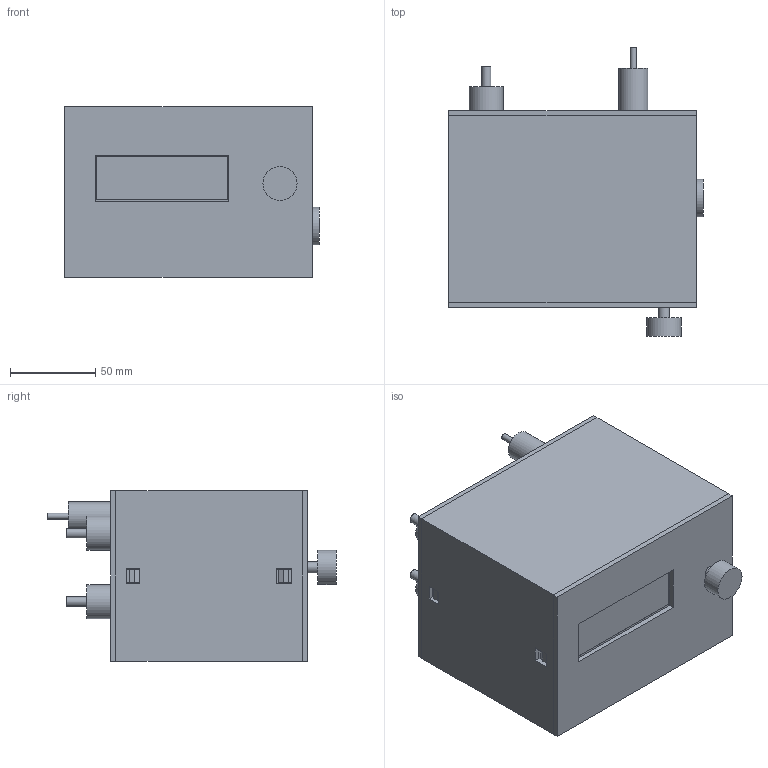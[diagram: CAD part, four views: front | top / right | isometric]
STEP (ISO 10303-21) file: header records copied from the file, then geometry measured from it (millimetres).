
FILE_DESCRIPTION(('Open CASCADE Model'),'2;1');
FILE_NAME('Open CASCADE Shape Model','2026-11-04T22:00:47',('Author'),( 'Open CASCADE'),'Open CASCADE STEP processor 7.8','Open CASCADE 7.8' ,'Unknown');
FILE_SCHEMA(('AUTOMOTIVE_DESIGN { 1 0 10303 214 1 1 1 1 }'));
Length unit declared in the file: millimetre
Products named in the file (76): Laboratory_controller_fit_study_04_Removable_Front; 01_Pieces_imprimees; 01_Shell_open_front_and_rear; 02_Removable_front_LCD_A; 03_B_removable_carrier; 04_Rear_panel_with_latches; 02_Carte_A_reference; PCB_A; A_U1_ENVELOPE; A_U2_ENVELOPE; A_J1_ENVELOPE; A_J6_ENVELOPE; A_J7_ENVELOPE; A_J2_ENVELOPE; A_J3_ENVELOPE; A_J4_ENVELOPE; A_J5_ENVELOPE; A_JP1_ENVELOPE; A_C1_ENVELOPE; A_C2_ENVELOPE; A_C3_ENVELOPE; A_R1_ENVELOPE; A_R2_ENVELOPE; A_R3_ENVELOPE; A_R4_ENVELOPE; A_R5_ENVELOPE; 03_Carte_B_reference; PCB_B; B_U1_ENVELOPE; B_U2_ENVELOPE; B_U3_ENVELOPE; B_U4_ENVELOPE; B_Q1_ENVELOPE; B_F1_ENVELOPE; B_D1_ENVELOPE; B_D2_ENVELOPE; B_J2_ENVELOPE; B_J3_ENVELOPE; B_J4_ENVELOPE; B_J1_ENVELOPE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
Assembly tree (75 placements, depth 3):
  Laboratory_controller_fit_study_04_Removable_Front
    01_Pieces_imprimees
      01_Shell_open_front_and_rear
      02_Removable_front_LCD_A
      03_B_removable_carrier
      04_Rear_panel_with_latches
    02_Carte_A_reference
      PCB_A
      A_U1_ENVELOPE
      A_U2_ENVELOPE
      A_J1_ENVELOPE
      A_J6_ENVELOPE
      A_J7_ENVELOPE
      A_J2_ENVELOPE
      A_J3_ENVELOPE
      A_J4_ENVELOPE
      A_J5_ENVELOPE
      A_JP1_ENVELOPE
      A_C1_ENVELOPE
      A_C2_ENVELOPE
      A_C3_ENVELOPE
      A_R1_ENVELOPE
      A_R2_ENVELOPE
      A_R3_ENVELOPE
      A_R4_ENVELOPE
      A_R5_ENVELOPE
    03_Carte_B_reference
      PCB_B
      B_U1_ENVELOPE
      B_U2_ENVELOPE
      B_U3_ENVELOPE
      B_U4_ENVELOPE
      B_Q1_ENVELOPE
      B_F1_ENVELOPE
      B_D1_ENVELOPE
      B_D2_ENVELOPE
      B_J2_ENVELOPE
      B_J3_ENVELOPE
      B_J4_ENVELOPE
      B_J1_ENVELOPE
      B_J6_ENVELOPE
      B_J7_ENVELOPE
      B_C1_ENVELOPE
      B_C2_ENVELOPE
      B_C3_ENVELOPE
      B_C4_ENVELOPE
      B_C5_ENVELOPE
      B_R1_ENVELOPE
      B_R2_ENVELOPE
      B_R3_ENVELOPE
      B_R4_ENVELOPE
      B_R5_ENVELOPE
      B_R6_ENVELOPE
      B_R7_ENVELOPE
    04_Afficheur_encodeur_reference
      LCD_PCB_98x60_TBD
      LCD_front_bezel_TBD
      LCD_backpack_TBD
      LCD_visible_screen
      Encoder_body_TBD
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Bounding box: 149 x 169 x 100 mm (x, y, z)
Volume: 451945.6 mm3; surface area: 308024.1 mm2
Topology: 69 solids, 69 shells, 786 faces, 1852 edges, 1223 vertices
Faces by surface type: plane 741, cylinder 45
Full cylindrical faces by diameter (mm): 2.2 x12, 3 x3, 3.5 x1, 4.3 x1, 5.5 x2, 6.3 x2, 6.4 x1, 7.2 x1, 8 x1, 12 x6, 12.4 x1, 12.5 x2, 15 x2, 16 x1, 17 x2, 20 x5, 22 x2
Entity records: 47611 total; most frequent: CARTESIAN_POINT 8681, DIRECTION 6624, LINE 4569, VECTOR 4569, ORIENTED_EDGE 3704, PCURVE 3704, DEFINITIONAL_REPRESENTATION 3704, EDGE_CURVE 1852
